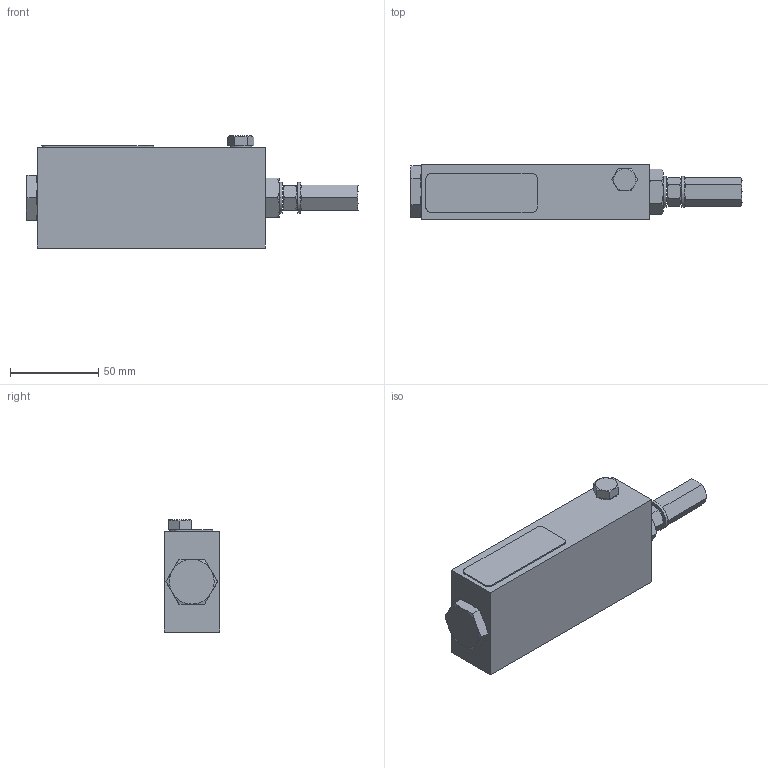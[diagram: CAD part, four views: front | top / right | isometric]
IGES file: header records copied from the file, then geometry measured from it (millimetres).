
Start section:  PTC IGES file: 563305-en-l.igs
Global section: file name: 563305-en-l.igs; native system: Creo Parametric by PTC Inc.; preprocessor: 2021072; author: qtmwp1; organization: Unknown; date: 20220214.141157; units: inch
Bounding box: 188.42 x 31.5 x 63.58 mm (x, y, z)
Surface area: 34081.8 mm2 (no closed solid volume)
Topology: 0 solids, 0 shells, 113 faces, 461 edges, 461 vertices
Faces by surface type: revolution 63, bspline 50
